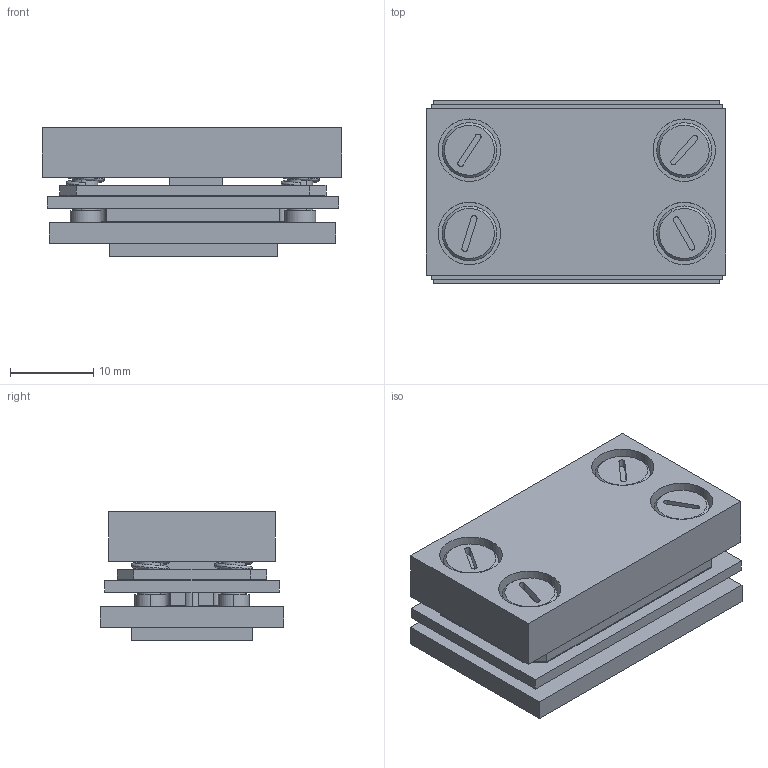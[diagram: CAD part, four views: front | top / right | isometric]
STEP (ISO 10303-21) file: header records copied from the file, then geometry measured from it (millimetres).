
FILE_DESCRIPTION (( 'STEP AP214' ), '1' );
FILE_NAME ('2518809.STEP', '2023-05-18T15:19:56', ( '' ), ( '' ), 'SwSTEP 2.0', 'SolidWorks 2021', '' );
FILE_SCHEMA (( 'AUTOMOTIVE_DESIGN' ));
Length unit declared in the file: millimetre
Products named in the file (22): 2512939-Comp; 2518812-FR4; 2518812; LEE SPRING LC020CD 02M_aSSY-iSO; 2518809; Elec-Pad-s322-PCB-DMD; Test-Elec-Pad-s322; 2518816-Compressed_aSSY-iSO; LEE SPRING LCM060B 02M_aSSY-iSO; Ceramic-s322; 2518813; s322-PCB-Pad-Pattern; 2518815; 2518810; 2518814; s322-DMD-Assy-wPads; SymPad-s322; s322-Pad-Pattern; 2518811; 2518808; Window-s322; Elec-Pad-s322-DMD
Assembly tree (338 placements, depth 4):
  2518809
    2518810
    s322-DMD-Assy-wPads
      Ceramic-s322
      Window-s322
      s322-Pad-Pattern
        Elec-Pad-s322-DMD  x151
        Test-Elec-Pad-s322  x8
      SymPad-s322
    2518808
    2518812
      2518812-FR4
      s322-PCB-Pad-Pattern
        Elec-Pad-s322-PCB-DMD  x151
    2518813
    2518811
    2518814  x4
    2518816-Compressed_aSSY-iSO
    2518815
    LEE SPRING LCM060B 02M_aSSY-iSO  x4
    LEE SPRING LC020CD 02M_aSSY-iSO  x4
    2512939-Comp  x2
Bounding box: 36 x 22 x 15.49 mm (x, y, z)
Volume: 8025.8 mm3; surface area: 11455.9 mm2
Topology: 334 solids, 334 shells, 3305 faces, 6810 edges, 4511 vertices
Faces by surface type: plane 2414, cylinder 812, torus 32, cone 31, bspline 16
Entity records: 43403 total; most frequent: CARTESIAN_POINT 8673, DIRECTION 7826, ORIENTED_EDGE 5814, AXIS2_PLACEMENT_3D 3252, EDGE_CURVE 2907, VERTEX_POINT 1925, EDGE_LOOP 1730, CIRCLE 1569
